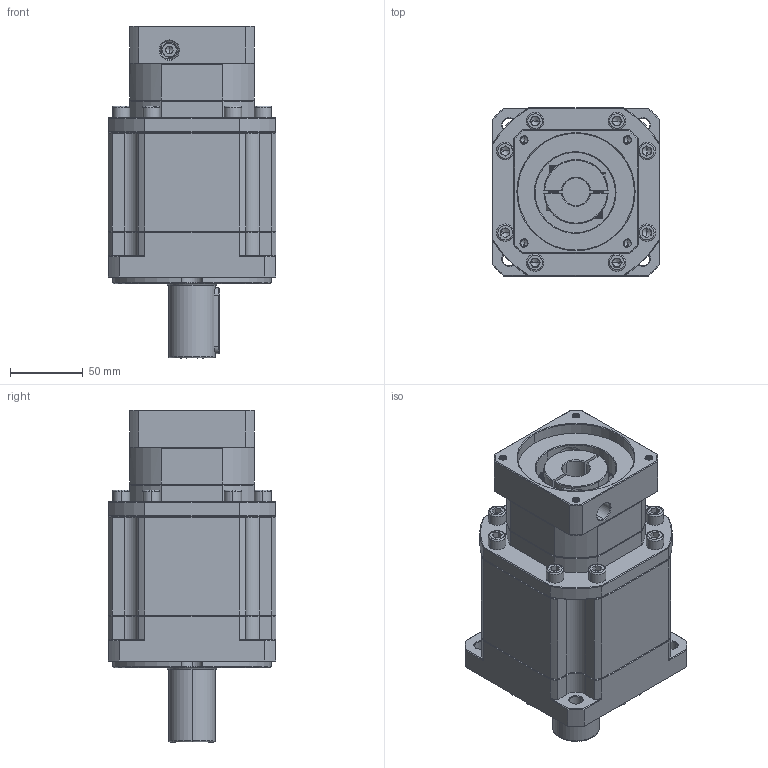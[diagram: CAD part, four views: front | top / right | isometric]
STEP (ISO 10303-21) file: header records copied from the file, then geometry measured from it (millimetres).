
FILE_DESCRIPTION (( 'STEP AP214' ), '1' );
FILE_NAME ('ZB115A-D32-L3-P2-19-80-100-M6.step', '2023-08-26T10:03:30', ( '' ), ( '' ), 'SwSTEP 2.0', 'SolidWorks 2016', '' );
FILE_SCHEMA (( 'AUTOMOTIVE_DESIGN' ));
Length unit declared in the file: millimetre
Products named in the file (1): ZB115A-D32-L3-P2-19-80-100-M6
Bounding box: 115 x 115 x 227.5 mm (x, y, z)
Volume: 1695475 mm3; surface area: 146676 mm2
Topology: 5 solids, 6 shells, 2413 faces, 6327 edges, 4016 vertices
Faces by surface type: plane 1190, bspline 427, cylinder 425, cone 356, torus 15
Entity records: 128566 total; most frequent: CARTESIAN_POINT 46255, ORIENTED_EDGE 12578, DIRECTION 9952, EDGE_CURVE 6289, VECTOR 4040, LINE 4040, VERTEX_POINT 4016, AXIS2_PLACEMENT_3D 2956
